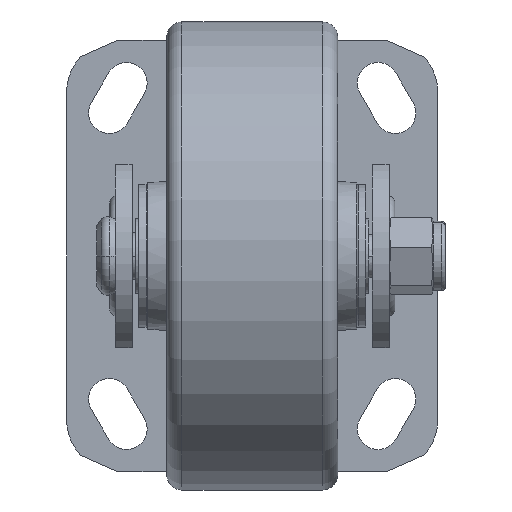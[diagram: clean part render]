
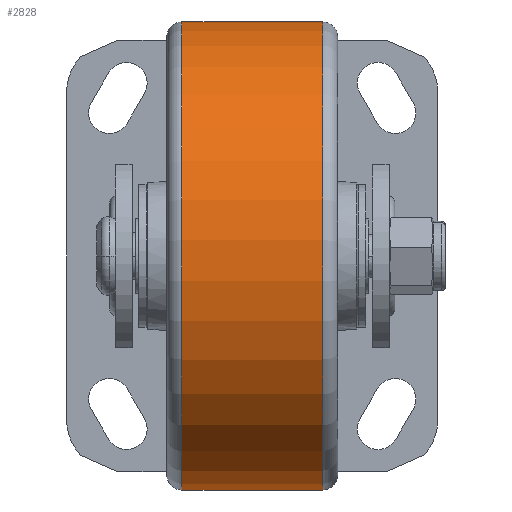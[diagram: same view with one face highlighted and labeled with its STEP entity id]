
A CAD part, front view. The second image highlights one B-rep face of the part: STEP entity #2828.
In plain terms, the highlighted cylindrical face has radius 62.5 mm (diameter 125 mm), a partial arc.
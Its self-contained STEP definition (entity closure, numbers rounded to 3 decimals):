
#701 = CARTESIAN_POINT ( 'NONE',  ( -18.75, -94.147, -62.362 ) ) ;
#1025 = DIRECTION ( 'NONE',  ( 1., 0., 0. ) ) ;
#1232 = CARTESIAN_POINT ( 'NONE',  ( 18.75, -85.853, 62.362 ) ) ;
#2195 = CARTESIAN_POINT ( 'NONE',  ( 35.412, -94.147, -62.362 ) ) ;
#2336 = ORIENTED_EDGE ( 'NONE', *, *, #17551, .F. ) ;
#2447 = DIRECTION ( 'NONE',  ( 1., 0., 0. ) ) ;
#2817 = EDGE_LOOP ( 'NONE', ( #18964, #11883, #16750, #2336 ) ) ;
#2828 = ADVANCED_FACE ( 'NONE', ( #8541 ), #11251, .T. ) ;
#2845 = EDGE_CURVE ( 'NONE', #16587, #6089, #4062, .T. ) ;
#3638 = LINE ( 'NONE', #2195, #8032 ) ;
#3791 = EDGE_CURVE ( 'NONE', #6990, #11893, #15536, .T. ) ;
#4062 = CIRCLE ( 'NONE', #18925, 62.5 ) ;
#4392 = DIRECTION ( 'NONE',  ( 1., 0., 0. ) ) ;
#6089 = VERTEX_POINT ( 'NONE', #10543 ) ;
#6702 = CARTESIAN_POINT ( 'NONE',  ( 18.75, -90., 0. ) ) ;
#6912 = DIRECTION ( 'NONE',  ( 0., 0.066, 0.998 ) ) ;
#6990 = VERTEX_POINT ( 'NONE', #12590 ) ;
#8032 = VECTOR ( 'NONE', #14008, 1000. ) ;
#8541 = FACE_OUTER_BOUND ( 'NONE', #2817, .T. ) ;
#10543 = CARTESIAN_POINT ( 'NONE',  ( 18.75, -94.147, -62.362 ) ) ;
#11251 = CYLINDRICAL_SURFACE ( 'NONE', #17075, 62.5 ) ;
#11883 = ORIENTED_EDGE ( 'NONE', *, *, #13065, .T. ) ;
#11893 = VERTEX_POINT ( 'NONE', #701 ) ;
#12026 = VECTOR ( 'NONE', #4392, 1000. ) ;
#12590 = CARTESIAN_POINT ( 'NONE',  ( -18.75, -85.853, 62.362 ) ) ;
#12806 = DIRECTION ( 'NONE',  ( 0., 0.066, 0.998 ) ) ;
#12896 = DIRECTION ( 'NONE',  ( 0., 0.066, 0.998 ) ) ;
#12999 = CARTESIAN_POINT ( 'NONE',  ( 35.412, -90., 0. ) ) ;
#13065 = EDGE_CURVE ( 'NONE', #11893, #6089, #3638, .T. ) ;
#13116 = CARTESIAN_POINT ( 'NONE',  ( 35.412, -85.853, 62.362 ) ) ;
#14001 = AXIS2_PLACEMENT_3D ( 'NONE', #15698, #1025, #6912 ) ;
#14008 = DIRECTION ( 'NONE',  ( 1., 0., 0. ) ) ;
#14069 = DIRECTION ( 'NONE',  ( 1., 0., 0. ) ) ;
#15536 = CIRCLE ( 'NONE', #14001, 62.5 ) ;
#15698 = CARTESIAN_POINT ( 'NONE',  ( -18.75, -90., 0. ) ) ;
#15909 = LINE ( 'NONE', #13116, #12026 ) ;
#16587 = VERTEX_POINT ( 'NONE', #1232 ) ;
#16750 = ORIENTED_EDGE ( 'NONE', *, *, #2845, .F. ) ;
#17075 = AXIS2_PLACEMENT_3D ( 'NONE', #12999, #2447, #12806 ) ;
#17551 = EDGE_CURVE ( 'NONE', #6990, #16587, #15909, .T. ) ;
#18925 = AXIS2_PLACEMENT_3D ( 'NONE', #6702, #14069, #12896 ) ;
#18964 = ORIENTED_EDGE ( 'NONE', *, *, #3791, .T. ) ;
